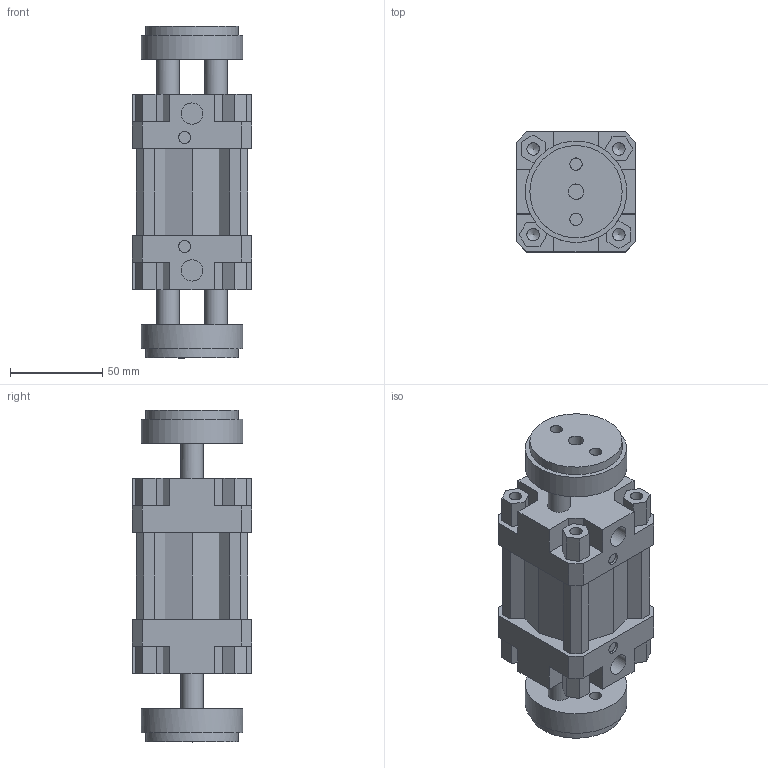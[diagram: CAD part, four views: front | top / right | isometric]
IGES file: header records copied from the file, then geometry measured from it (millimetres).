
Global section: file name: 132#_050_0000_06; native system: Autodesk Inventor 2014; preprocessor: unknown; author: A. Manieri; date: 20161006.155634; units: millimetre
Bounding box: 65 x 65 x 180 mm (x, y, z)
Volume: 437017.9 mm3; surface area: 97096.9 mm2
Topology: 2 solids, 2 shells, 190 faces, 518 edges, 354 vertices
Faces by surface type: bspline 190
